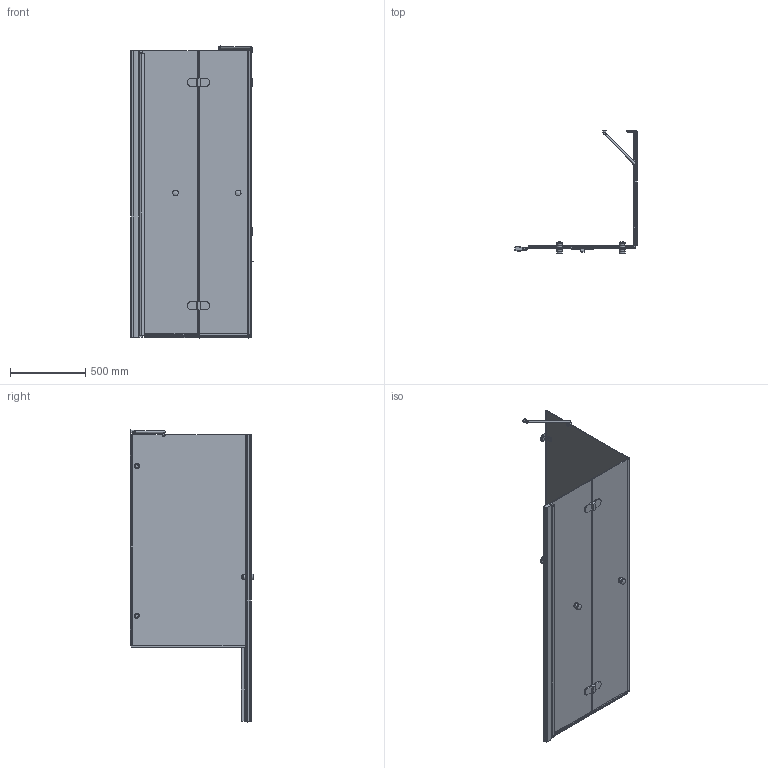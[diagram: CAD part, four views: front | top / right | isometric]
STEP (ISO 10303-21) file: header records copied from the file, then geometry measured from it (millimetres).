
FILE_DESCRIPTION(/* description */ (''),/* implementation_level */ '2;1');
FILE_NAME(/* name */ 'D:\551\LUX SQUARE GK-103АСV\LUX SQUARE GK-103\X2\04100421\X0\V левая модель\LUX SQUARE GK-103АСV ЛЕВАЯ-3D.stp',/* time_stamp */ '2020-12-20T20:49:21+03:00',/* author */ ('User'),/* organization */ (''),/* preprocessor_version */ 'ST-DEVELOPER v15.2',/* originating_system */ 'Autodesk Inventor 2014',/* authorisation */ '');
FILE_SCHEMA (('AUTOMOTIVE_DESIGN { 1 0 10303 214 3 1 1 }'));
Length unit declared in the file: millimetre
Products named in the file (1): LUX SQUARE GK-103АСV \X2\041B041504120410
042F\X0\-3D
Bounding box: 808.63 x 818.05 x 1935.32 mm (x, y, z)
Volume: 19035172.8 mm3; surface area: 5943366.6 mm2
Topology: 3 solids, 3 shells, 730 faces, 2134 edges, 1401 vertices
Faces by surface type: plane 472, cylinder 218, cone 17, torus 9, sphere 8, bspline 6
Full cylindrical faces by diameter (mm): 5 x1, 7.8 x1, 12 x1, 15 x1, 16.9 x1, 20 x2, 26 x1, 30 x6, 35 x2, 38 x8, 40 x2
Entity records: 24953 total; most frequent: CARTESIAN_POINT 4705, ORIENTED_EDGE 4138, DIRECTION 3995, EDGE_CURVE 2067, LINE 1471, VECTOR 1471, VERTEX_POINT 1379, AXIS2_PLACEMENT_3D 1262
